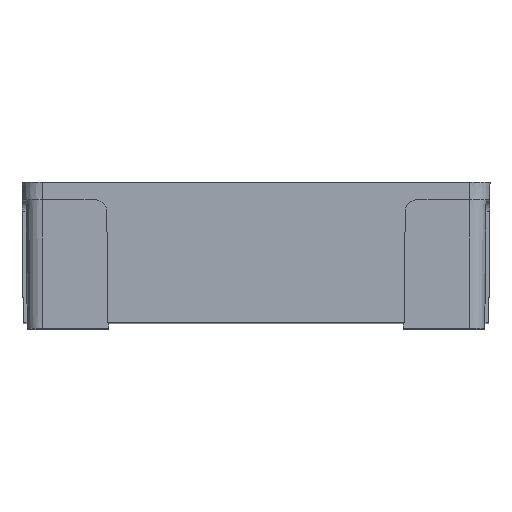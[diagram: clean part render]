
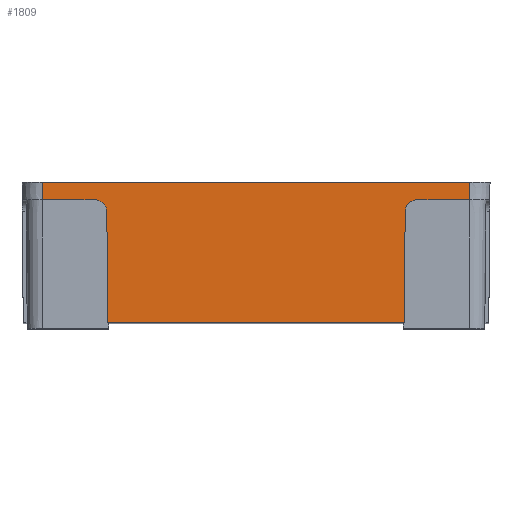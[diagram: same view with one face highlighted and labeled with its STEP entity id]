
A CAD part, top view. The second image highlights one B-rep face of the part: STEP entity #1809.
In plain terms, the highlighted planar face has unit normal (0, -0.009, 1).
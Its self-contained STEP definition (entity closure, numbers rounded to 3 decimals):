
#1641 = VERTEX_POINT ( 'NONE', #5277 ) ;
#1668 = EDGE_CURVE ( 'NONE', #1669, #1641, #5296, .T. ) ;
#1669 = VERTEX_POINT ( 'NONE', #5359 ) ;
#1741 = EDGE_CURVE ( 'NONE', #1786, #1742, #5475, .T. ) ;
#1742 = VERTEX_POINT ( 'NONE', #5471 ) ;
#1786 = VERTEX_POINT ( 'NONE', #5516 ) ;
#1797 = EDGE_CURVE ( 'NONE', #1810, #1641, #5548, .T. ) ;
#1804 = ORIENTED_EDGE ( 'NONE', *, *, #1805, .T. ) ;
#1805 = EDGE_CURVE ( 'NONE', #1810, #1806, #5587, .T. ) ;
#1806 = VERTEX_POINT ( 'NONE', #5586 ) ;
#1807 = ORIENTED_EDGE ( 'NONE', *, *, #1741, .F. ) ;
#1808 = VERTEX_POINT ( 'NONE', #5581 ) ;
#1809 = ADVANCED_FACE ( 'NONE', ( #5580 ), #5578, .T. ) ;
#1810 = VERTEX_POINT ( 'NONE', #5579 ) ;
#1811 = VERTEX_POINT ( 'NONE', #5573 ) ;
#1843 = EDGE_CURVE ( 'NONE', #1882, #1811, #5622, .T. ) ;
#1844 = EDGE_LOOP ( 'NONE', ( #1885, #1804, #1848, #1850, #1853, #1807, #1855, #1876, #1878, #1880 ) ) ;
#1848 = ORIENTED_EDGE ( 'NONE', *, *, #1849, .F. ) ;
#1849 = EDGE_CURVE ( 'NONE', #1882, #1806, #5678, .T. ) ;
#1850 = ORIENTED_EDGE ( 'NONE', *, *, #1843, .T. ) ;
#1853 = ORIENTED_EDGE ( 'NONE', *, *, #1854, .F. ) ;
#1854 = EDGE_CURVE ( 'NONE', #1742, #1811, #5670, .T. ) ;
#1855 = ORIENTED_EDGE ( 'NONE', *, *, #1856, .T. ) ;
#1856 = EDGE_CURVE ( 'NONE', #1786, #1808, #5666, .T. ) ;
#1857 = VERTEX_POINT ( 'NONE', #5662 ) ;
#1876 = ORIENTED_EDGE ( 'NONE', *, *, #1877, .T. ) ;
#1877 = EDGE_CURVE ( 'NONE', #1808, #1857, #5712, .T. ) ;
#1878 = ORIENTED_EDGE ( 'NONE', *, *, #1879, .F. ) ;
#1879 = EDGE_CURVE ( 'NONE', #1669, #1857, #5707, .T. ) ;
#1880 = ORIENTED_EDGE ( 'NONE', *, *, #1668, .T. ) ;
#1882 = VERTEX_POINT ( 'NONE', #5698 ) ;
#1885 = ORIENTED_EDGE ( 'NONE', *, *, #1797, .F. ) ;
#5277 = CARTESIAN_POINT ( 'NONE',  ( 25.367, -24., 64.841 ) ) ;
#5294 = VECTOR ( 'NONE', #5360, 1000. ) ;
#5295 = CARTESIAN_POINT ( 'NONE',  ( -36.55, -24., 64.841 ) ) ;
#5296 = LINE ( 'NONE', #5295, #5294 ) ;
#5359 = CARTESIAN_POINT ( 'NONE',  ( -25.367, -24., 64.841 ) ) ;
#5360 = DIRECTION ( 'NONE',  ( 1., 0., 0. ) ) ;
#5471 = CARTESIAN_POINT ( 'NONE',  ( -36.55, 0., 65.05 ) ) ;
#5472 = DIRECTION ( 'NONE',  ( 0., 1., 0.009 ) ) ;
#5473 = VECTOR ( 'NONE', #5472, 1000. ) ;
#5474 = CARTESIAN_POINT ( 'NONE',  ( -36.55, 0., 65.05 ) ) ;
#5475 = LINE ( 'NONE', #5474, #5473 ) ;
#5516 = CARTESIAN_POINT ( 'NONE',  ( -36.55, -3., 65.024 ) ) ;
#5545 = DIRECTION ( 'NONE',  ( -0.009, -1., -0.009 ) ) ;
#5546 = VECTOR ( 'NONE', #5545, 1000. ) ;
#5547 = CARTESIAN_POINT ( 'NONE',  ( 25.571, -0.542, 65.045 ) ) ;
#5548 = LINE ( 'NONE', #5547, #5546 ) ;
#5573 = CARTESIAN_POINT ( 'NONE',  ( 36.55, 0., 65.05 ) ) ;
#5574 = DIRECTION ( 'NONE',  ( 0., -1., -0.009 ) ) ;
#5575 = DIRECTION ( 'NONE',  ( 0., -0.009, 1. ) ) ;
#5576 = CARTESIAN_POINT ( 'NONE',  ( -36.55, 0., 65.05 ) ) ;
#5577 = AXIS2_PLACEMENT_3D ( 'NONE', #5576, #5575, #5574 ) ;
#5578 = PLANE ( 'NONE',  #5577 ) ;
#5579 = CARTESIAN_POINT ( 'NONE',  ( 25.533, -4.983, 65.007 ) ) ;
#5580 = FACE_OUTER_BOUND ( 'NONE', #1844, .T. ) ;
#5581 = CARTESIAN_POINT ( 'NONE',  ( -27.533, -3., 65.024 ) ) ;
#5582 = CARTESIAN_POINT ( 'NONE',  ( 27.533, -3., 65.024 ) ) ;
#5583 = CARTESIAN_POINT ( 'NONE',  ( 26.369, -3., 65.024 ) ) ;
#5584 = CARTESIAN_POINT ( 'NONE',  ( 25.543, -3.819, 65.017 ) ) ;
#5585 = CARTESIAN_POINT ( 'NONE',  ( 25.533, -4.983, 65.007 ) ) ;
#5586 = CARTESIAN_POINT ( 'NONE',  ( 27.533, -3., 65.024 ) ) ;
#5587 =( BOUNDED_CURVE ( )  B_SPLINE_CURVE ( 3, ( #5585, #5584, #5583, #5582 ),
 .UNSPECIFIED., .F., .T. ) 
 B_SPLINE_CURVE_WITH_KNOTS ( ( 4, 4 ),
 ( 1.58, 3.142 ),
 .UNSPECIFIED. ) 
 CURVE ( )  GEOMETRIC_REPRESENTATION_ITEM ( )  RATIONAL_B_SPLINE_CURVE ( ( 1., 0.807, 0.807, 1. ) ) 
 REPRESENTATION_ITEM ( '' )  );
#5619 = DIRECTION ( 'NONE',  ( 0., 1., 0.009 ) ) ;
#5620 = VECTOR ( 'NONE', #5619, 1000. ) ;
#5621 = CARTESIAN_POINT ( 'NONE',  ( 36.55, 0., 65.05 ) ) ;
#5622 = LINE ( 'NONE', #5621, #5620 ) ;
#5662 = CARTESIAN_POINT ( 'NONE',  ( -25.533, -4.983, 65.007 ) ) ;
#5663 = DIRECTION ( 'NONE',  ( 1., 0., 0. ) ) ;
#5664 = VECTOR ( 'NONE', #5663, 1000. ) ;
#5665 = CARTESIAN_POINT ( 'NONE',  ( -36.55, -3., 65.024 ) ) ;
#5666 = LINE ( 'NONE', #5665, #5664 ) ;
#5667 = DIRECTION ( 'NONE',  ( 1., 0., 0. ) ) ;
#5668 = VECTOR ( 'NONE', #5667, 1000. ) ;
#5669 = CARTESIAN_POINT ( 'NONE',  ( -36.55, 0., 65.05 ) ) ;
#5670 = LINE ( 'NONE', #5669, #5668 ) ;
#5675 = DIRECTION ( 'NONE',  ( -1., 0., 0. ) ) ;
#5676 = VECTOR ( 'NONE', #5675, 1000. ) ;
#5677 = CARTESIAN_POINT ( 'NONE',  ( -36.55, -3., 65.024 ) ) ;
#5678 = LINE ( 'NONE', #5677, #5676 ) ;
#5698 = CARTESIAN_POINT ( 'NONE',  ( 36.55, -3., 65.024 ) ) ;
#5704 = DIRECTION ( 'NONE',  ( -0.009, 1., 0.009 ) ) ;
#5705 = VECTOR ( 'NONE', #5704, 1000. ) ;
#5706 = CARTESIAN_POINT ( 'NONE',  ( -25.577, 0.096, 65.051 ) ) ;
#5707 = LINE ( 'NONE', #5706, #5705 ) ;
#5708 = CARTESIAN_POINT ( 'NONE',  ( -25.533, -4.983, 65.007 ) ) ;
#5709 = CARTESIAN_POINT ( 'NONE',  ( -25.543, -3.819, 65.017 ) ) ;
#5710 = CARTESIAN_POINT ( 'NONE',  ( -26.369, -3., 65.024 ) ) ;
#5711 = CARTESIAN_POINT ( 'NONE',  ( -27.533, -3., 65.024 ) ) ;
#5712 =( BOUNDED_CURVE ( )  B_SPLINE_CURVE ( 3, ( #5711, #5710, #5709, #5708 ),
 .UNSPECIFIED., .F., .T. ) 
 B_SPLINE_CURVE_WITH_KNOTS ( ( 4, 4 ),
 ( 3.142, 4.704 ),
 .UNSPECIFIED. ) 
 CURVE ( )  GEOMETRIC_REPRESENTATION_ITEM ( )  RATIONAL_B_SPLINE_CURVE ( ( 1., 0.807, 0.807, 1. ) ) 
 REPRESENTATION_ITEM ( '' )  );
